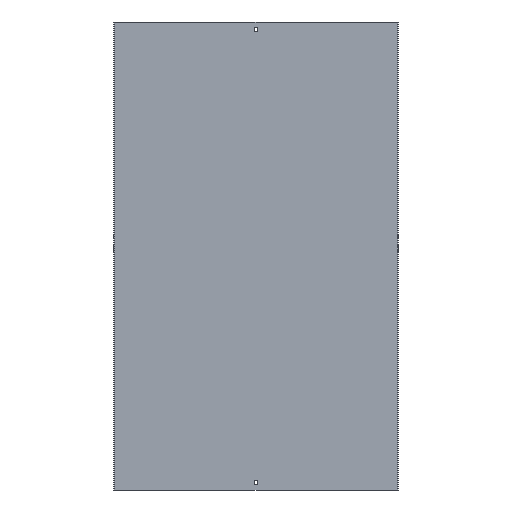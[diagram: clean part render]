
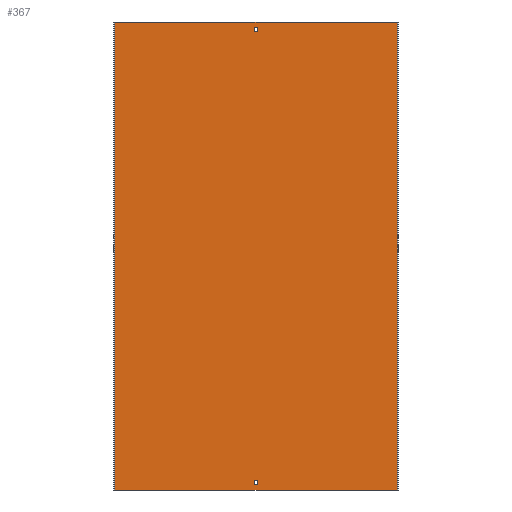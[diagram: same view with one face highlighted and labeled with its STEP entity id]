
A CAD part, front view. The second image highlights one B-rep face of the part: STEP entity #367.
In plain terms, the highlighted planar face has unit normal (0, -1, 0).
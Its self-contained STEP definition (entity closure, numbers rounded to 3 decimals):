
#13 = AXIS2_PLACEMENT_3D ( 'NONE', #462, #418, #330 ) ;
#17 = CARTESIAN_POINT ( 'NONE',  ( 3.25, -1.5, 479. ) ) ;
#18 = VERTEX_POINT ( 'NONE', #340 ) ;
#30 = ORIENTED_EDGE ( 'NONE', *, *, #176, .F. ) ;
#42 = EDGE_CURVE ( 'NONE', #323, #329, #222, .T. ) ;
#51 = CARTESIAN_POINT ( 'NONE',  ( -3.25, -1.5, 479. ) ) ;
#52 = EDGE_CURVE ( 'NONE', #348, #18, #567, .T. ) ;
#53 = VERTEX_POINT ( 'NONE', #422 ) ;
#60 = ORIENTED_EDGE ( 'NONE', *, *, #42, .F. ) ;
#70 = VECTOR ( 'NONE', #89, 1000. ) ;
#75 = VECTOR ( 'NONE', #541, 1000. ) ;
#78 = VERTEX_POINT ( 'NONE', #17 ) ;
#79 = CARTESIAN_POINT ( 'NONE',  ( 302., -1.5, 500. ) ) ;
#80 = ORIENTED_EDGE ( 'NONE', *, *, #408, .T. ) ;
#89 = DIRECTION ( 'NONE',  ( -1., 0., 0. ) ) ;
#94 = DIRECTION ( 'NONE',  ( 0., 0., 1. ) ) ;
#96 = VECTOR ( 'NONE', #435, 1000. ) ;
#114 = CARTESIAN_POINT ( 'NONE',  ( 3.25, -1.5, -479. ) ) ;
#116 = ORIENTED_EDGE ( 'NONE', *, *, #489, .T. ) ;
#121 = CARTESIAN_POINT ( 'NONE',  ( -303.5, -1.5, 479. ) ) ;
#128 = LINE ( 'NONE', #392, #365 ) ;
#140 = CARTESIAN_POINT ( 'NONE',  ( -3.25, -1.5, 500. ) ) ;
#141 = VECTOR ( 'NONE', #487, 1000. ) ;
#148 = CARTESIAN_POINT ( 'NONE',  ( -303.5, -1.5, -488. ) ) ;
#153 = ORIENTED_EDGE ( 'NONE', *, *, #415, .T. ) ;
#164 = VECTOR ( 'NONE', #211, 1000. ) ;
#168 = EDGE_CURVE ( 'NONE', #78, #584, #399, .T. ) ;
#169 = DIRECTION ( 'NONE',  ( -1., 0., 0. ) ) ;
#173 = VECTOR ( 'NONE', #530, 1000. ) ;
#176 = EDGE_CURVE ( 'NONE', #584, #323, #264, .T. ) ;
#182 = CARTESIAN_POINT ( 'NONE',  ( -3.25, -1.5, -479. ) ) ;
#185 = VECTOR ( 'NONE', #554, 1000. ) ;
#196 = CARTESIAN_POINT ( 'NONE',  ( 302., -1.5, 500. ) ) ;
#211 = DIRECTION ( 'NONE',  ( 1., 0., 0. ) ) ;
#212 = EDGE_CURVE ( 'NONE', #53, #379, #230, .T. ) ;
#222 = LINE ( 'NONE', #394, #185 ) ;
#225 = LINE ( 'NONE', #140, #366 ) ;
#230 = LINE ( 'NONE', #352, #75 ) ;
#238 = ORIENTED_EDGE ( 'NONE', *, *, #453, .F. ) ;
#241 = FACE_BOUND ( 'NONE', #327, .T. ) ;
#244 = CARTESIAN_POINT ( 'NONE',  ( 3.25, -1.5, 488. ) ) ;
#250 = EDGE_CURVE ( 'NONE', #18, #525, #225, .T. ) ;
#255 = ORIENTED_EDGE ( 'NONE', *, *, #403, .T. ) ;
#257 = LINE ( 'NONE', #518, #173 ) ;
#259 = DIRECTION ( 'NONE',  ( 0., 0., -1. ) ) ;
#264 = LINE ( 'NONE', #590, #70 ) ;
#284 = DIRECTION ( 'NONE',  ( -1., 0., 0. ) ) ;
#291 = ORIENTED_EDGE ( 'NONE', *, *, #398, .F. ) ;
#300 = LINE ( 'NONE', #79, #141 ) ;
#304 = LINE ( 'NONE', #578, #96 ) ;
#319 = DIRECTION ( 'NONE',  ( 0., 0., 1. ) ) ;
#323 = VERTEX_POINT ( 'NONE', #560 ) ;
#327 = EDGE_LOOP ( 'NONE', ( #577, #351, #153, #255 ) ) ;
#329 = VERTEX_POINT ( 'NONE', #51 ) ;
#330 = DIRECTION ( 'NONE',  ( 0., 0., -1. ) ) ;
#334 = FACE_OUTER_BOUND ( 'NONE', #335, .T. ) ;
#335 = EDGE_LOOP ( 'NONE', ( #563, #238, #116, #80 ) ) ;
#337 = LINE ( 'NONE', #121, #164 ) ;
#340 = CARTESIAN_POINT ( 'NONE',  ( -3.25, -1.5, -488. ) ) ;
#348 = VERTEX_POINT ( 'NONE', #429 ) ;
#351 = ORIENTED_EDGE ( 'NONE', *, *, #250, .T. ) ;
#352 = CARTESIAN_POINT ( 'NONE',  ( -303.5, -1.5, -500. ) ) ;
#365 = VECTOR ( 'NONE', #169, 1000. ) ;
#366 = VECTOR ( 'NONE', #319, 1000. ) ;
#367 = ADVANCED_FACE ( 'NONE', ( #552, #334, #241 ), #476, .T. ) ;
#369 = VERTEX_POINT ( 'NONE', #114 ) ;
#379 = VERTEX_POINT ( 'NONE', #381 ) ;
#381 = CARTESIAN_POINT ( 'NONE',  ( -302., -1.5, -500. ) ) ;
#385 = LINE ( 'NONE', #478, #491 ) ;
#386 = CARTESIAN_POINT ( 'NONE',  ( -302., -1.5, 500. ) ) ;
#392 = CARTESIAN_POINT ( 'NONE',  ( -303.5, -1.5, 500. ) ) ;
#394 = CARTESIAN_POINT ( 'NONE',  ( -3.25, -1.5, 500. ) ) ;
#398 = EDGE_CURVE ( 'NONE', #329, #78, #337, .T. ) ;
#399 = LINE ( 'NONE', #582, #506 ) ;
#403 = EDGE_CURVE ( 'NONE', #369, #348, #257, .T. ) ;
#408 = EDGE_CURVE ( 'NONE', #486, #379, #385, .T. ) ;
#415 = EDGE_CURVE ( 'NONE', #525, #369, #304, .T. ) ;
#418 = DIRECTION ( 'NONE',  ( 0., -1., 0. ) ) ;
#422 = CARTESIAN_POINT ( 'NONE',  ( 302., -1.5, -500. ) ) ;
#429 = CARTESIAN_POINT ( 'NONE',  ( 3.25, -1.5, -488. ) ) ;
#435 = DIRECTION ( 'NONE',  ( 1., 0., 0. ) ) ;
#453 = EDGE_CURVE ( 'NONE', #579, #53, #300, .T. ) ;
#462 = CARTESIAN_POINT ( 'NONE',  ( -303.5, -1.5, 500. ) ) ;
#476 = PLANE ( 'NONE',  #13 ) ;
#478 = CARTESIAN_POINT ( 'NONE',  ( -302., -1.5, 500. ) ) ;
#479 = VECTOR ( 'NONE', #284, 1000. ) ;
#486 = VERTEX_POINT ( 'NONE', #386 ) ;
#487 = DIRECTION ( 'NONE',  ( 0., 0., -1. ) ) ;
#489 = EDGE_CURVE ( 'NONE', #579, #486, #128, .T. ) ;
#491 = VECTOR ( 'NONE', #259, 1000. ) ;
#493 = EDGE_LOOP ( 'NONE', ( #60, #30, #533, #291 ) ) ;
#506 = VECTOR ( 'NONE', #94, 1000. ) ;
#518 = CARTESIAN_POINT ( 'NONE',  ( 3.25, -1.5, 500. ) ) ;
#525 = VERTEX_POINT ( 'NONE', #182 ) ;
#530 = DIRECTION ( 'NONE',  ( 0., 0., -1. ) ) ;
#533 = ORIENTED_EDGE ( 'NONE', *, *, #168, .F. ) ;
#541 = DIRECTION ( 'NONE',  ( -1., 0., 0. ) ) ;
#552 = FACE_BOUND ( 'NONE', #493, .T. ) ;
#554 = DIRECTION ( 'NONE',  ( 0., 0., -1. ) ) ;
#560 = CARTESIAN_POINT ( 'NONE',  ( -3.25, -1.5, 488. ) ) ;
#563 = ORIENTED_EDGE ( 'NONE', *, *, #212, .F. ) ;
#567 = LINE ( 'NONE', #148, #479 ) ;
#577 = ORIENTED_EDGE ( 'NONE', *, *, #52, .T. ) ;
#578 = CARTESIAN_POINT ( 'NONE',  ( -303.5, -1.5, -479. ) ) ;
#579 = VERTEX_POINT ( 'NONE', #196 ) ;
#582 = CARTESIAN_POINT ( 'NONE',  ( 3.25, -1.5, 500. ) ) ;
#584 = VERTEX_POINT ( 'NONE', #244 ) ;
#590 = CARTESIAN_POINT ( 'NONE',  ( -303.5, -1.5, 488. ) ) ;
